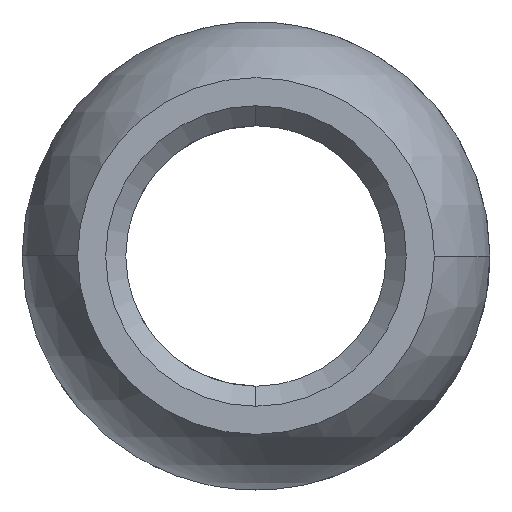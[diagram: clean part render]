
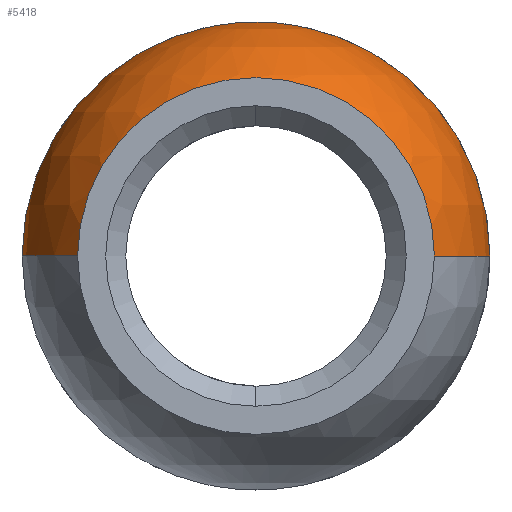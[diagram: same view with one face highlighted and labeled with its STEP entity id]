
A CAD part, front view. The second image highlights one B-rep face of the part: STEP entity #5418.
In plain terms, the highlighted spherical face has radius 9.271 mm.
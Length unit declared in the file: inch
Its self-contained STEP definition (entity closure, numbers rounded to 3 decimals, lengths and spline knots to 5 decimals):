
#91 = DIRECTION ( 'NONE',  ( -1., 0., 0. ) ) ;
#798 = DIRECTION ( 'NONE',  ( 1., 0., 0. ) ) ;
#2294 = CIRCLE ( 'NONE', #6964, 0.27825 ) ;
#3020 = ORIENTED_EDGE ( 'NONE', *, *, #3189, .T. ) ;
#3108 = VERTEX_POINT ( 'NONE', #11166 ) ;
#3189 = EDGE_CURVE ( 'NONE', #8755, #3472, #8749, .T. ) ;
#3281 = DIRECTION ( 'NONE',  ( 0., 0., 1. ) ) ;
#3472 = VERTEX_POINT ( 'NONE', #11263 ) ;
#3542 = EDGE_CURVE ( 'NONE', #3472, #3108, #8906, .T. ) ;
#3584 = CARTESIAN_POINT ( 'NONE',  ( 0.27825, -0.23622, 0. ) ) ;
#3886 = AXIS2_PLACEMENT_3D ( 'NONE', #12551, #6323, #91 ) ;
#4172 = FACE_OUTER_BOUND ( 'NONE', #10965, .T. ) ;
#4927 = DIRECTION ( 'NONE',  ( 0., -1., 0. ) ) ;
#5418 = ADVANCED_FACE ( 'NONE', ( #4172 ), #13108, .T. ) ;
#5944 = DIRECTION ( 'NONE',  ( 0., -1., 0. ) ) ;
#6275 = AXIS2_PLACEMENT_3D ( 'NONE', #8879, #8582, #8662 ) ;
#6323 = DIRECTION ( 'NONE',  ( 0., 0., -1. ) ) ;
#6964 = AXIS2_PLACEMENT_3D ( 'NONE', #12164, #5944, #13204 ) ;
#7268 = CARTESIAN_POINT ( 'NONE',  ( 0.36492, -0.0075, 0. ) ) ;
#7271 = CARTESIAN_POINT ( 'NONE',  ( 0., -0.0075, 0. ) ) ;
#7465 = EDGE_CURVE ( 'NONE', #8755, #9899, #9558, .T. ) ;
#8582 = DIRECTION ( 'NONE',  ( 0., 0., 1. ) ) ;
#8662 = DIRECTION ( 'NONE',  ( 1., 0., 0. ) ) ;
#8749 = CIRCLE ( 'NONE', #12782, 0.36492 ) ;
#8755 = VERTEX_POINT ( 'NONE', #7268 ) ;
#8879 = CARTESIAN_POINT ( 'NONE',  ( 0., 0., 0. ) ) ;
#8906 = CIRCLE ( 'NONE', #6275, 0.365 ) ;
#8988 = CARTESIAN_POINT ( 'NONE',  ( 0., 0., 0. ) ) ;
#9558 = CIRCLE ( 'NONE', #3886, 0.365 ) ;
#9899 = VERTEX_POINT ( 'NONE', #3584 ) ;
#10711 = ORIENTED_EDGE ( 'NONE', *, *, #7465, .F. ) ;
#10965 = EDGE_LOOP ( 'NONE', ( #3020, #13171, #11469, #10711 ) ) ;
#11095 = DIRECTION ( 'NONE',  ( 1., 0., 0. ) ) ;
#11166 = CARTESIAN_POINT ( 'NONE',  ( -0.27825, -0.23622, 0. ) ) ;
#11263 = CARTESIAN_POINT ( 'NONE',  ( -0.36492, -0.0075, 0. ) ) ;
#11469 = ORIENTED_EDGE ( 'NONE', *, *, #11512, .F. ) ;
#11512 = EDGE_CURVE ( 'NONE', #9899, #3108, #2294, .T. ) ;
#12009 = AXIS2_PLACEMENT_3D ( 'NONE', #8988, #3281, #11095 ) ;
#12164 = CARTESIAN_POINT ( 'NONE',  ( 0., -0.23622, 0. ) ) ;
#12551 = CARTESIAN_POINT ( 'NONE',  ( 0., 0., 0. ) ) ;
#12782 = AXIS2_PLACEMENT_3D ( 'NONE', #7271, #4927, #798 ) ;
#13108 = SPHERICAL_SURFACE ( 'NONE', #12009, 0.365 ) ;
#13171 = ORIENTED_EDGE ( 'NONE', *, *, #3542, .T. ) ;
#13204 = DIRECTION ( 'NONE',  ( 1., 0., 0. ) ) ;
